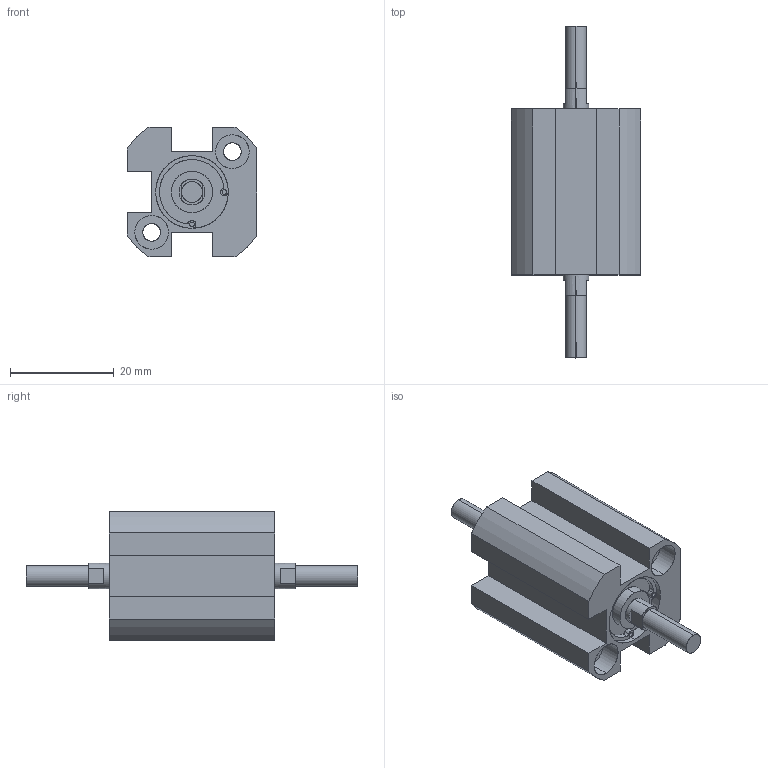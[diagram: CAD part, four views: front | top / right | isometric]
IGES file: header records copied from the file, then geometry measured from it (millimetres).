
Start section: SolidWorks IGES file using analytic representation for surfaces
Global section: file name: C:\Users\Toshiba\Desktop\XC#M7-10-10.IGS; native system: SolidWorks 2014; preprocessor: SolidWorks 2014; author: Toshiba; date: 160523.165304; units: millimetre
Bounding box: 25 x 64 x 25 mm (x, y, z)
Surface area: 6605.6 mm2 (no closed solid volume)
Topology: 0 solids, 0 shells, 108 faces, 1780 edges, 1776 vertices
Faces by surface type: revolution 62, bspline 46
